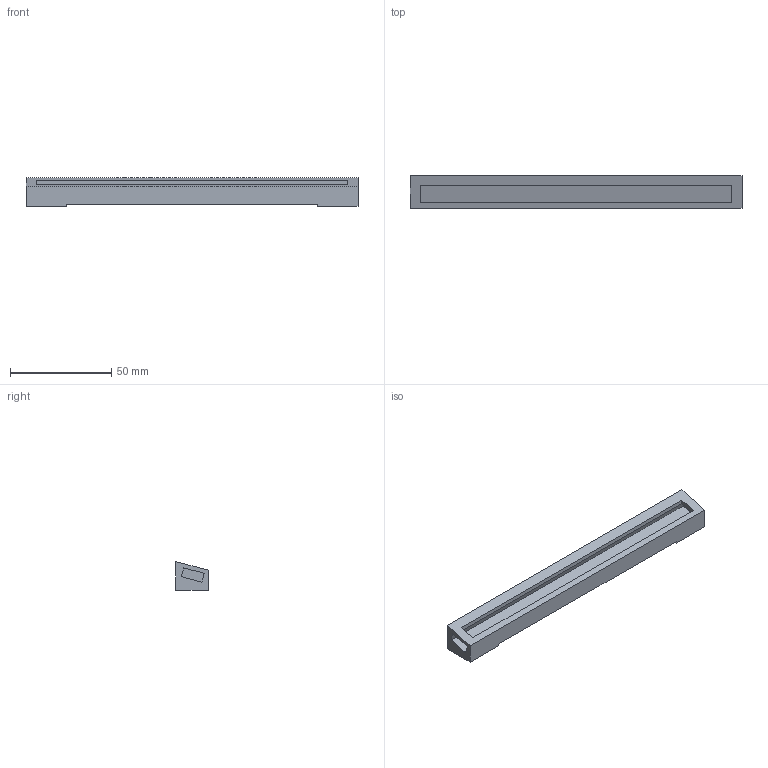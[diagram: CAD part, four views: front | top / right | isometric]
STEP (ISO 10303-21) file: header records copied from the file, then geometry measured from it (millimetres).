
FILE_DESCRIPTION (( 'STEP AP203' ), '1' );
FILE_NAME ('WOODQ029-1.STEP', '2023-01-27T11:52:54', ( '' ), ( '' ), 'SwSTEP 2.0', 'SolidWorks 2018', '' );
FILE_SCHEMA (( 'CONFIG_CONTROL_DESIGN' ));
Length unit declared in the file: millimetre
Products named in the file (1): WOODQ029-1
Bounding box: 164 x 16 x 14.29 mm (x, y, z)
Volume: 19626.3 mm3; surface area: 12554.7 mm2
Topology: 1 solids, 1 shells, 25 faces, 60 edges, 40 vertices
Faces by surface type: plane 21, cylinder 4
Entity records: 803 total; most frequent: CARTESIAN_POINT 126, ORIENTED_EDGE 120, DIRECTION 120, EDGE_CURVE 60, LINE 52, VECTOR 52, VERTEX_POINT 40, AXIS2_PLACEMENT_3D 34
